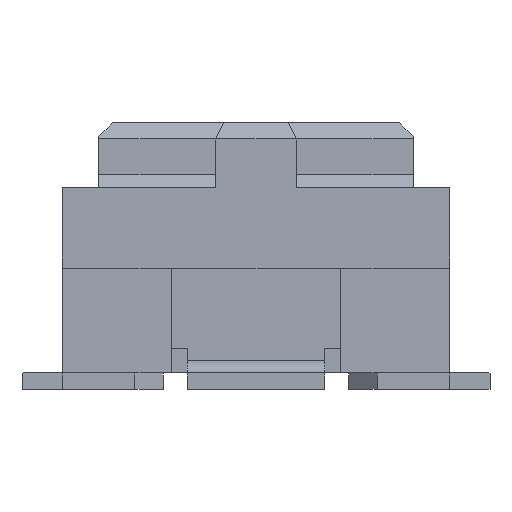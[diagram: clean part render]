
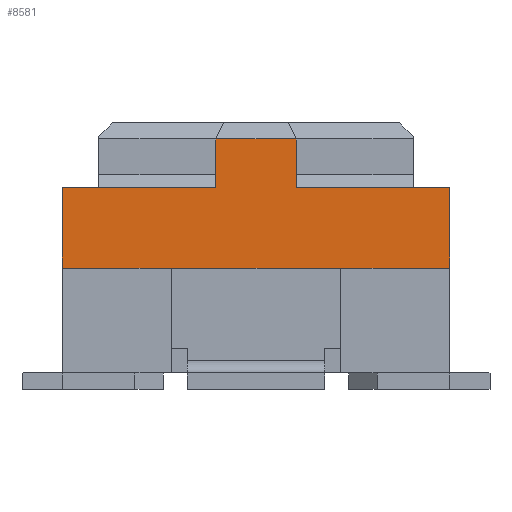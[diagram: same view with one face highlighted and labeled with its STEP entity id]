
A CAD part, left-side view. The second image highlights one B-rep face of the part: STEP entity #8581.
In plain terms, the highlighted planar face has unit normal (-1, 0, 0).
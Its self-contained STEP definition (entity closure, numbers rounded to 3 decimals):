
#83 = ORIENTED_EDGE ( 'NONE', *, *, #5401, .T. ) ;
#210 = VECTOR ( 'NONE', #8016, 1000. ) ;
#240 = AXIS2_PLACEMENT_3D ( 'NONE', #2427, #5028, #5092 ) ;
#249 = VECTOR ( 'NONE', #1700, 1000. ) ;
#363 = VECTOR ( 'NONE', #4322, 1000. ) ;
#375 = EDGE_CURVE ( 'NONE', #8361, #8693, #7412, .T. ) ;
#405 = VERTEX_POINT ( 'NONE', #7020 ) ;
#418 = CARTESIAN_POINT ( 'NONE',  ( -4.05, 0.5, 3.1 ) ) ;
#486 = CARTESIAN_POINT ( 'NONE',  ( -4.05, 2.4, 0. ) ) ;
#661 = B_SPLINE_CURVE_WITH_KNOTS ( 'NONE', 3,
 ( #5652, #2949, #3583, #7567 ),
 .UNSPECIFIED., .F., .F.,
 ( 4, 4 ),
 ( 0., 1. ),
 .UNSPECIFIED. ) ;
#671 = CARTESIAN_POINT ( 'NONE',  ( -4.05, -0.5, 2.5 ) ) ;
#744 = ORIENTED_EDGE ( 'NONE', *, *, #375, .F. ) ;
#782 = CARTESIAN_POINT ( 'NONE',  ( -4.05, 1.05, 1.5 ) ) ;
#873 = CARTESIAN_POINT ( 'NONE',  ( -4.05, -0.5, 3.3 ) ) ;
#879 = EDGE_CURVE ( 'NONE', #1318, #8032, #7827, .T. ) ;
#915 = CARTESIAN_POINT ( 'NONE',  ( -4.05, 1.525, 1.5 ) ) ;
#999 = VECTOR ( 'NONE', #4444, 1000. ) ;
#1318 = VERTEX_POINT ( 'NONE', #4872 ) ;
#1376 = VECTOR ( 'NONE', #8335, 1000. ) ;
#1377 = CARTESIAN_POINT ( 'NONE',  ( -4.05, 0.5, 3.3 ) ) ;
#1401 = EDGE_CURVE ( 'NONE', #2598, #1796, #8688, .T. ) ;
#1421 = EDGE_CURVE ( 'NONE', #405, #5719, #8099, .T. ) ;
#1524 = DIRECTION ( 'NONE',  ( 0., 0., -1. ) ) ;
#1528 = EDGE_LOOP ( 'NONE', ( #8440, #6965, #7491, #83, #5221, #7467, #5928, #2821, #5408, #2090, #6580, #7266, #3818, #744, #8149 ) ) ;
#1608 = CARTESIAN_POINT ( 'NONE',  ( -4.05, 1.525, 1.4 ) ) ;
#1700 = DIRECTION ( 'NONE',  ( 0., 1., 0. ) ) ;
#1796 = VERTEX_POINT ( 'NONE', #4774 ) ;
#1943 = EDGE_CURVE ( 'NONE', #5719, #8032, #4475, .T. ) ;
#2090 = ORIENTED_EDGE ( 'NONE', *, *, #879, .T. ) ;
#2105 = EDGE_CURVE ( 'NONE', #8631, #6424, #5390, .T. ) ;
#2163 = LINE ( 'NONE', #8321, #363 ) ;
#2187 = CARTESIAN_POINT ( 'NONE',  ( -4.05, 2.4, 1.4 ) ) ;
#2207 = CARTESIAN_POINT ( 'NONE',  ( -4.05, -0.7, 1.5 ) ) ;
#2268 = FACE_OUTER_BOUND ( 'NONE', #1528, .T. ) ;
#2370 = VERTEX_POINT ( 'NONE', #3997 ) ;
#2411 = CARTESIAN_POINT ( 'NONE',  ( -4.05, -1.05, 1.5 ) ) ;
#2427 = CARTESIAN_POINT ( 'NONE',  ( -4.05, 2.4, 0. ) ) ;
#2598 = VERTEX_POINT ( 'NONE', #3513 ) ;
#2812 = CARTESIAN_POINT ( 'NONE',  ( -4.05, 0.5, 2.5 ) ) ;
#2821 = ORIENTED_EDGE ( 'NONE', *, *, #1401, .T. ) ;
#2837 = CARTESIAN_POINT ( 'NONE',  ( -4.05, -0.5, 2.5 ) ) ;
#2903 = CARTESIAN_POINT ( 'NONE',  ( -4.05, -1.05, 1.5 ) ) ;
#2930 = CARTESIAN_POINT ( 'NONE',  ( -4.05, 0., 1.5 ) ) ;
#2942 = CARTESIAN_POINT ( 'NONE',  ( -4.05, 1.525, 1.467 ) ) ;
#2949 = CARTESIAN_POINT ( 'NONE',  ( -4.05, -1.525, 1.433 ) ) ;
#3424 = DIRECTION ( 'NONE',  ( 0., 1., 0. ) ) ;
#3443 = VECTOR ( 'NONE', #6822, 1000. ) ;
#3513 = CARTESIAN_POINT ( 'NONE',  ( -4.05, 1.525, 1.4 ) ) ;
#3570 = EDGE_CURVE ( 'NONE', #6833, #2370, #5575, .T. ) ;
#3571 = CARTESIAN_POINT ( 'NONE',  ( -4.05, 2.4, 1.5 ) ) ;
#3583 = CARTESIAN_POINT ( 'NONE',  ( -4.05, -1.525, 1.467 ) ) ;
#3818 = ORIENTED_EDGE ( 'NONE', *, *, #4793, .F. ) ;
#3853 = LINE ( 'NONE', #2837, #7833 ) ;
#3988 = EDGE_CURVE ( 'NONE', #2370, #8662, #4040, .T. ) ;
#3997 = CARTESIAN_POINT ( 'NONE',  ( -4.05, 2.4, 2.5 ) ) ;
#4040 = LINE ( 'NONE', #486, #999 ) ;
#4147 = CARTESIAN_POINT ( 'NONE',  ( -4.05, 0.7, 1.5 ) ) ;
#4322 = DIRECTION ( 'NONE',  ( 0., -1., 0. ) ) ;
#4328 = EDGE_CURVE ( 'NONE', #7122, #8361, #5896, .T. ) ;
#4444 = DIRECTION ( 'NONE',  ( 0., 0., -1. ) ) ;
#4475 = B_SPLINE_CURVE_WITH_KNOTS ( 'NONE', 3,
 ( #2903, #2207, #6877, #7573 ),
 .UNSPECIFIED., .F., .F.,
 ( 4, 4 ),
 ( 0.156, 0.5 ),
 .UNSPECIFIED. ) ;
#4508 = VERTEX_POINT ( 'NONE', #671 ) ;
#4774 = CARTESIAN_POINT ( 'NONE',  ( -4.05, 1.525, 1.5 ) ) ;
#4793 = EDGE_CURVE ( 'NONE', #8693, #405, #661, .T. ) ;
#4795 = LINE ( 'NONE', #7104, #7715 ) ;
#4819 = LINE ( 'NONE', #1377, #3443 ) ;
#4855 = CARTESIAN_POINT ( 'NONE',  ( -4.05, -2.4, 1.4 ) ) ;
#4872 = CARTESIAN_POINT ( 'NONE',  ( -4.05, 1.05, 1.5 ) ) ;
#4919 = CARTESIAN_POINT ( 'NONE',  ( -4.05, 0., 1.5 ) ) ;
#5028 = DIRECTION ( 'NONE',  ( 1., 0., 0. ) ) ;
#5092 = DIRECTION ( 'NONE',  ( 0., 0., -1. ) ) ;
#5144 = VECTOR ( 'NONE', #3424, 1000. ) ;
#5221 = ORIENTED_EDGE ( 'NONE', *, *, #3570, .T. ) ;
#5253 = CARTESIAN_POINT ( 'NONE',  ( -4.05, -3.36, 3.1 ) ) ;
#5277 = CARTESIAN_POINT ( 'NONE',  ( -4.05, -0.5, 3.1 ) ) ;
#5390 = LINE ( 'NONE', #5253, #7040 ) ;
#5401 = EDGE_CURVE ( 'NONE', #8631, #6833, #4819, .T. ) ;
#5408 = ORIENTED_EDGE ( 'NONE', *, *, #7625, .T. ) ;
#5569 = EDGE_CURVE ( 'NONE', #6424, #4508, #7420, .T. ) ;
#5575 = LINE ( 'NONE', #2812, #210 ) ;
#5652 = CARTESIAN_POINT ( 'NONE',  ( -4.05, -1.525, 1.4 ) ) ;
#5666 = VECTOR ( 'NONE', #1524, 1000. ) ;
#5719 = VERTEX_POINT ( 'NONE', #2411 ) ;
#5896 = LINE ( 'NONE', #6320, #1376 ) ;
#5899 = DIRECTION ( 'NONE',  ( 0., -1., 0. ) ) ;
#5928 = ORIENTED_EDGE ( 'NONE', *, *, #8537, .T. ) ;
#6027 = EDGE_CURVE ( 'NONE', #4508, #7122, #3853, .T. ) ;
#6320 = CARTESIAN_POINT ( 'NONE',  ( -4.05, -2.4, 0. ) ) ;
#6421 = CARTESIAN_POINT ( 'NONE',  ( -4.05, 0.5, 2.5 ) ) ;
#6424 = VERTEX_POINT ( 'NONE', #5277 ) ;
#6580 = ORIENTED_EDGE ( 'NONE', *, *, #1943, .F. ) ;
#6822 = DIRECTION ( 'NONE',  ( 0., 0., -1. ) ) ;
#6833 = VERTEX_POINT ( 'NONE', #6421 ) ;
#6866 = CARTESIAN_POINT ( 'NONE',  ( -4.05, -2.4, 2.5 ) ) ;
#6877 = CARTESIAN_POINT ( 'NONE',  ( -4.05, -0.35, 1.5 ) ) ;
#6935 = CARTESIAN_POINT ( 'NONE',  ( -4.05, 1.525, 1.433 ) ) ;
#6965 = ORIENTED_EDGE ( 'NONE', *, *, #5569, .F. ) ;
#7020 = CARTESIAN_POINT ( 'NONE',  ( -4.05, -1.525, 1.5 ) ) ;
#7031 = CARTESIAN_POINT ( 'NONE',  ( -4.05, -1.525, 1.4 ) ) ;
#7040 = VECTOR ( 'NONE', #5899, 1000. ) ;
#7104 = CARTESIAN_POINT ( 'NONE',  ( -4.05, -2.4, 1.5 ) ) ;
#7121 = CARTESIAN_POINT ( 'NONE',  ( -4.05, 2.4, 1.4 ) ) ;
#7122 = VERTEX_POINT ( 'NONE', #6866 ) ;
#7266 = ORIENTED_EDGE ( 'NONE', *, *, #1421, .F. ) ;
#7412 = LINE ( 'NONE', #2187, #5144 ) ;
#7420 = LINE ( 'NONE', #873, #5666 ) ;
#7467 = ORIENTED_EDGE ( 'NONE', *, *, #3988, .T. ) ;
#7491 = ORIENTED_EDGE ( 'NONE', *, *, #2105, .F. ) ;
#7507 = DIRECTION ( 'NONE',  ( 0., -1., 0. ) ) ;
#7567 = CARTESIAN_POINT ( 'NONE',  ( -4.05, -1.525, 1.5 ) ) ;
#7573 = CARTESIAN_POINT ( 'NONE',  ( -4.05, 0., 1.5 ) ) ;
#7625 = EDGE_CURVE ( 'NONE', #1796, #1318, #4795, .T. ) ;
#7715 = VECTOR ( 'NONE', #7873, 1000. ) ;
#7827 = B_SPLINE_CURVE_WITH_KNOTS ( 'NONE', 3,
 ( #782, #4147, #8186, #4919 ),
 .UNSPECIFIED., .F., .F.,
 ( 4, 4 ),
 ( 0.156, 0.5 ),
 .UNSPECIFIED. ) ;
#7833 = VECTOR ( 'NONE', #7507, 1000. ) ;
#7873 = DIRECTION ( 'NONE',  ( 0., -1., 0. ) ) ;
#8016 = DIRECTION ( 'NONE',  ( 0., 1., 0. ) ) ;
#8032 = VERTEX_POINT ( 'NONE', #2930 ) ;
#8099 = LINE ( 'NONE', #3571, #249 ) ;
#8149 = ORIENTED_EDGE ( 'NONE', *, *, #4328, .F. ) ;
#8186 = CARTESIAN_POINT ( 'NONE',  ( -4.05, 0.35, 1.5 ) ) ;
#8321 = CARTESIAN_POINT ( 'NONE',  ( -4.05, -2.4, 1.4 ) ) ;
#8335 = DIRECTION ( 'NONE',  ( 0., 0., -1. ) ) ;
#8352 = PLANE ( 'NONE',  #240 ) ;
#8361 = VERTEX_POINT ( 'NONE', #4855 ) ;
#8440 = ORIENTED_EDGE ( 'NONE', *, *, #6027, .F. ) ;
#8537 = EDGE_CURVE ( 'NONE', #8662, #2598, #2163, .T. ) ;
#8581 = ADVANCED_FACE ( 'NONE', ( #2268 ), #8352, .F. ) ;
#8631 = VERTEX_POINT ( 'NONE', #418 ) ;
#8662 = VERTEX_POINT ( 'NONE', #7121 ) ;
#8688 = B_SPLINE_CURVE_WITH_KNOTS ( 'NONE', 3,
 ( #1608, #6935, #2942, #915 ),
 .UNSPECIFIED., .F., .F.,
 ( 4, 4 ),
 ( 0., 1. ),
 .UNSPECIFIED. ) ;
#8693 = VERTEX_POINT ( 'NONE', #7031 ) ;
